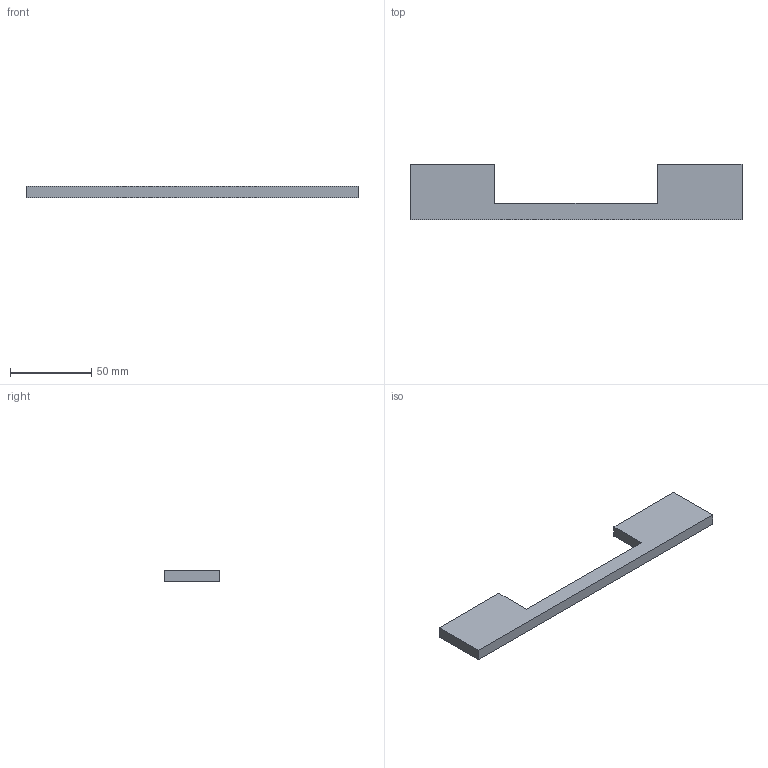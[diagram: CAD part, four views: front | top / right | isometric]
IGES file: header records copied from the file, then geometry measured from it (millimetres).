
Start section: Data from Parasolid IGES Translator 20.0.26, Copyright(c) 2006 Siemens P LM Software. All Rights Reserved.
Global section: file name: 115018.igs; native system: By Siemens PLM Incorporated; preprocessor: XPlus GENERIC/IGES 20.0.26; author: Noname; organization: Noname; date: 20230605.152927; units: millimetre
Bounding box: 204 x 34 x 7 mm (x, y, z)
Surface area: 13242.7 mm2 (no closed solid volume)
Topology: 0 solids, 0 shells, 18 faces, 72 edges, 66 vertices
Faces by surface type: extrusion 14, revolution 4
